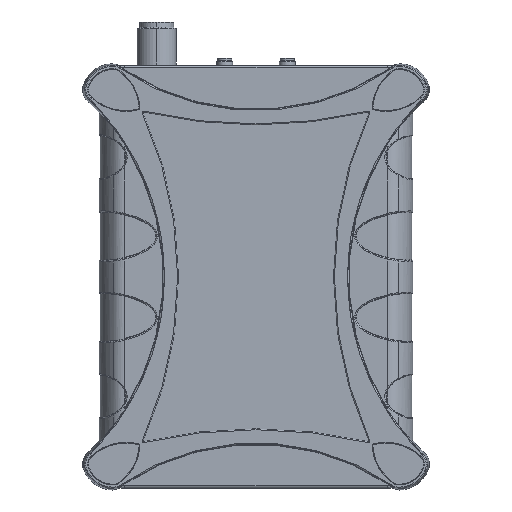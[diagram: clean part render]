
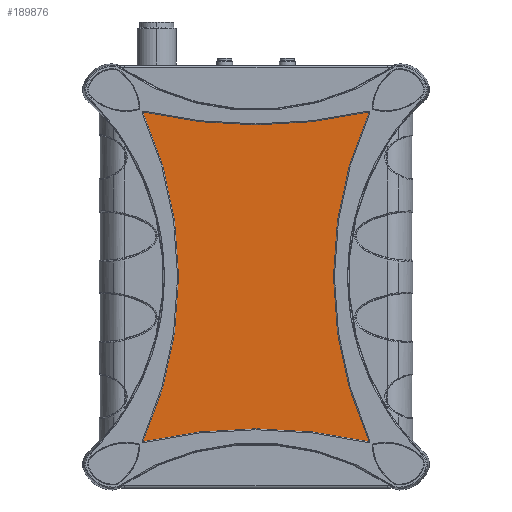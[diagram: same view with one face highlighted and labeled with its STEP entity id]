
A CAD part, front view. The second image highlights one B-rep face of the part: STEP entity #189876.
In plain terms, the highlighted planar face has unit normal (0, -1, 0).
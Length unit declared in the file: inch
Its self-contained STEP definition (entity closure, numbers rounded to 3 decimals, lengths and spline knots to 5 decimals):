
#136200=CARTESIAN_POINT('',(1.79369,-0.571,-2.63649));
#136201=CARTESIAN_POINT('',(1.79569,-0.571,-2.63695));
#136202=CARTESIAN_POINT('',(1.79934,-0.571,-2.63666));
#136203=CARTESIAN_POINT('',(1.80408,-0.571,-2.63345));
#136204=CARTESIAN_POINT('',(1.8063,-0.571,-2.62817));
#136205=CARTESIAN_POINT('',(1.80587,-0.571,-2.62453));
#136206=CARTESIAN_POINT('',(1.80502,-0.571,-2.62265));
#136211=CARTESIAN_POINT('',(0.,-0.571,-10.4371));
#136212=DIRECTION('',(0.,1.,0.));
#136213=DIRECTION('',(-0.224,0.,0.975));
#136214=AXIS2_PLACEMENT_3D('',#136211,#136212,#136213);
#136219=CARTESIAN_POINT('',(-1.80502,-0.571,-2.62265));
#136220=CARTESIAN_POINT('',(-1.80587,-0.571,-2.62453));
#136221=CARTESIAN_POINT('',(-1.8063,-0.571,-2.62817));
#136222=CARTESIAN_POINT('',(-1.80408,-0.571,-2.63345));
#136223=CARTESIAN_POINT('',(-1.79934,-0.571,-2.63666));
#136224=CARTESIAN_POINT('',(-1.79569,-0.571,-2.63695));
#136225=CARTESIAN_POINT('',(-1.79369,-0.571,-2.63649));
#136230=CARTESIAN_POINT('',(-7.60837,-0.571,0.));
#136231=DIRECTION('',(0.,1.,0.));
#136232=DIRECTION('',(0.911,0.,0.412));
#136233=AXIS2_PLACEMENT_3D('',#136230,#136231,#136232);
#136238=CARTESIAN_POINT('',(-1.79369,-0.571,2.63649));
#136239=CARTESIAN_POINT('',(-1.79569,-0.571,2.63695));
#136240=CARTESIAN_POINT('',(-1.79935,-0.571,2.63666));
#136241=CARTESIAN_POINT('',(-1.80409,-0.571,2.63344));
#136242=CARTESIAN_POINT('',(-1.8063,-0.571,2.62817));
#136243=CARTESIAN_POINT('',(-1.80587,-0.571,2.62453));
#136244=CARTESIAN_POINT('',(-1.80502,-0.571,2.62265));
#136249=CARTESIAN_POINT('',(0.,-0.571,10.4371));
#136250=DIRECTION('',(0.,1.,0.));
#136251=DIRECTION('',(0.224,0.,-0.975));
#136252=AXIS2_PLACEMENT_3D('',#136249,#136250,#136251);
#136257=CARTESIAN_POINT('',(1.80502,-0.571,2.62265));
#136258=CARTESIAN_POINT('',(1.80587,-0.571,2.62453));
#136259=CARTESIAN_POINT('',(1.8063,-0.571,2.62817));
#136260=CARTESIAN_POINT('',(1.80408,-0.571,2.63345));
#136261=CARTESIAN_POINT('',(1.79934,-0.571,2.63666));
#136262=CARTESIAN_POINT('',(1.79569,-0.571,2.63695));
#136263=CARTESIAN_POINT('',(1.79369,-0.571,2.63649));
#136268=CARTESIAN_POINT('',(7.60837,-0.571,0.));
#136269=DIRECTION('',(0.,1.,0.));
#136270=DIRECTION('',(-0.911,0.,-0.412));
#136271=AXIS2_PLACEMENT_3D('',#136268,#136269,#136270);
#162386=VERTEX_POINT('',#136200);
#162387=VERTEX_POINT('',#136206);
#162388=VERTEX_POINT('',#136219);
#162389=VERTEX_POINT('',#136225);
#162390=VERTEX_POINT('',#136238);
#162391=VERTEX_POINT('',#136244);
#162392=VERTEX_POINT('',#136257);
#162393=VERTEX_POINT('',#136263);
#189861=CARTESIAN_POINT('',(-2.1,-0.571,-4.09575));
#189862=DIRECTION('',(0.,-1.,0.));
#189863=DIRECTION('',(1.,0.,0.));
#189864=AXIS2_PLACEMENT_3D('',#189861,#189862,#189863);
#189865=PLANE('',#189864);
#189866=ORIENTED_EDGE('',*,*,#189605,.F.);
#189867=ORIENTED_EDGE('',*,*,#189626,.F.);
#189868=ORIENTED_EDGE('',*,*,#189671,.F.);
#189869=ORIENTED_EDGE('',*,*,#189692,.F.);
#189870=ORIENTED_EDGE('',*,*,#189737,.F.);
#189871=ORIENTED_EDGE('',*,*,#189758,.F.);
#189872=ORIENTED_EDGE('',*,*,#189802,.F.);
#189873=ORIENTED_EDGE('',*,*,#189559,.F.);
#189874=EDGE_LOOP('',(#189866,#189867,#189868,#189869,#189870,#189871,#189872,
#189873));
#189875=FACE_OUTER_BOUND('',#189874,.F.);
#189876=ADVANCED_FACE('',(#189875),#189865,.T.);
#136207=B_SPLINE_CURVE_WITH_KNOTS('',3,(#136200,#136201,#136202,#136203,#136204,
#136205,#136206),.UNSPECIFIED.,.F.,.F.,(4,1,1,1,4),(0.,0.25,0.5,0.75,
1.),.UNSPECIFIED.);
#136215=CIRCLE('',#136214,8.00418);
#136226=B_SPLINE_CURVE_WITH_KNOTS('',3,(#136219,#136220,#136221,#136222,#136223,
#136224,#136225),.UNSPECIFIED.,.F.,.F.,(4,1,1,1,4),(0.,0.25,0.5,0.75,
1.),.UNSPECIFIED.);
#136234=CIRCLE('',#136233,6.36845);
#136245=B_SPLINE_CURVE_WITH_KNOTS('',3,(#136238,#136239,#136240,#136241,#136242,
#136243,#136244),.UNSPECIFIED.,.F.,.F.,(4,1,1,1,4),(0.,0.25,0.5,0.75,
1.),.UNSPECIFIED.);
#136253=CIRCLE('',#136252,8.00418);
#136264=B_SPLINE_CURVE_WITH_KNOTS('',3,(#136257,#136258,#136259,#136260,#136261,
#136262,#136263),.UNSPECIFIED.,.F.,.F.,(4,1,1,1,4),(0.,0.25,0.5,0.75,
1.),.UNSPECIFIED.);
#136272=CIRCLE('',#136271,6.36845);
#189559=EDGE_CURVE('',#162387,#162392,#136272,.T.);
#189605=EDGE_CURVE('',#162386,#162387,#136207,.T.);
#189626=EDGE_CURVE('',#162389,#162386,#136215,.T.);
#189671=EDGE_CURVE('',#162388,#162389,#136226,.T.);
#189692=EDGE_CURVE('',#162391,#162388,#136234,.T.);
#189737=EDGE_CURVE('',#162390,#162391,#136245,.T.);
#189758=EDGE_CURVE('',#162393,#162390,#136253,.T.);
#189802=EDGE_CURVE('',#162392,#162393,#136264,.T.);
